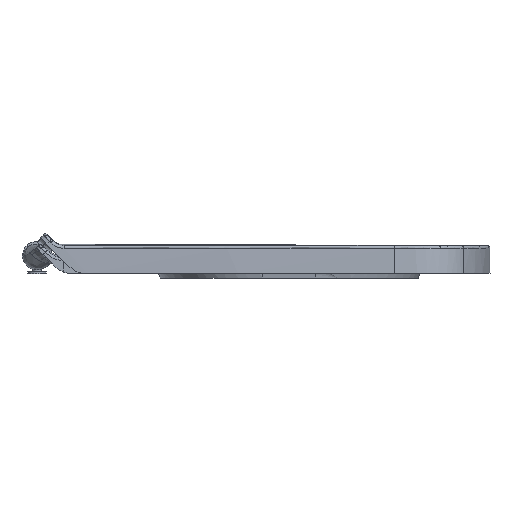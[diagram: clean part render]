
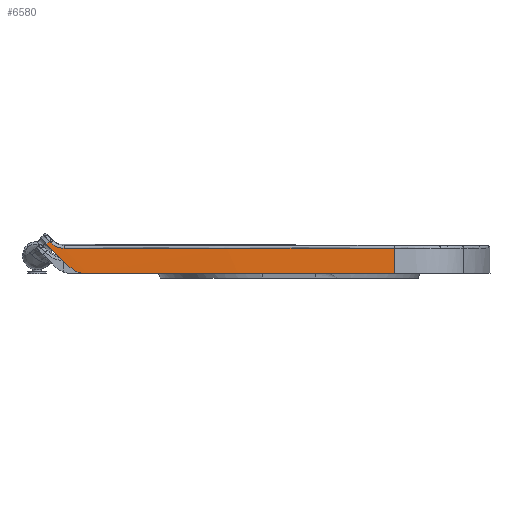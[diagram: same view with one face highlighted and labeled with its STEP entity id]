
A CAD part, front view. The second image highlights one B-rep face of the part: STEP entity #6580.
In plain terms, the highlighted free-form (B-spline) face has degree [4, 1] with [5, 3] control points.
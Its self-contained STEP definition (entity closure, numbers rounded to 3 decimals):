
#5187=CARTESIAN_POINT('',(-388.204,182.106,8.246));
#5188=VERTEX_POINT('',#5187);
#5290=CARTESIAN_POINT('',(-388.216,182.355,-19.));
#5291=VERTEX_POINT('',#5290);
#5292=CARTESIAN_POINT('',(-388.204,182.106,8.246));
#5293=DIRECTION('',(0.,0.009,-1.));
#5294=VECTOR('',#5293,27.247);
#5295=LINE('',#5292,#5294);
#5296=EDGE_CURVE('',#5188,#5291,#5295,.T.);
#5628=CARTESIAN_POINT('',(-30.285,188.697,8.387));
#5629=VERTEX_POINT('',#5628);
#5639=CARTESIAN_POINT('',(-30.285,188.697,8.387));
#5640=CARTESIAN_POINT('',(-81.43,189.35,8.378));
#5641=CARTESIAN_POINT('',(-132.579,189.653,8.364));
#5642=CARTESIAN_POINT('',(-183.735,189.327,8.349));
#5643=CARTESIAN_POINT('',(-234.879,188.216,8.333));
#5644=CARTESIAN_POINT('',(-286.008,186.726,8.311));
#5645=CARTESIAN_POINT('',(-337.119,184.668,8.282));
#5646=CARTESIAN_POINT('',(-388.204,182.106,8.246));
#5647=QUASI_UNIFORM_CURVE('',7,(#5639,#5640,#5641,#5642,#5643,#5644,#5645,#5646),.UNSPECIFIED.,.F.,.U.);
#5648=EDGE_CURVE('',#5629,#5188,#5647,.T.);
#6254=CARTESIAN_POINT('',(-14.563,188.417,15.819));
#6255=VERTEX_POINT('',#6254);
#6262=CARTESIAN_POINT('',(-16.133,188.453,14.249));
#6263=VERTEX_POINT('',#6262);
#6264=CARTESIAN_POINT('',(628.623,140.679,-630.249));
#6265=DIRECTION('',(0.049,0.998,-0.025));
#6266=DIRECTION('',(-0.705,0.052,0.708));
#6267=AXIS2_PLACEMENT_3D('',#6264,#6265,#6266);
#6268=CIRCLE('',#6267,912.892);
#6269=EDGE_CURVE('',#6263,#6255,#6268,.T.);
#6338=CARTESIAN_POINT('',(-16.133,188.453,14.249));
#6339=CARTESIAN_POINT('',(-17.31,188.481,13.072));
#6340=CARTESIAN_POINT('',(-18.542,188.508,11.937));
#6341=CARTESIAN_POINT('',(-19.94,188.535,11.033));
#6342=CARTESIAN_POINT('',(-21.857,188.573,9.791));
#6343=CARTESIAN_POINT('',(-24.041,188.61,8.972));
#6344=CARTESIAN_POINT('',(-26.299,188.643,8.625));
#6345=CARTESIAN_POINT('',(-27.616,188.662,8.423));
#6346=CARTESIAN_POINT('',(-28.953,188.68,8.387));
#6347=CARTESIAN_POINT('',(-30.285,188.697,8.387));
#6348=B_SPLINE_CURVE_WITH_KNOTS('',3,(#6338,#6339,#6340,#6341,#6342,#6343,#6344,#6345,#6346,#6347),.UNSPECIFIED.,.F.,.U.,(4,3,3,4),(0.0,0.315,0.748,1.0),.UNSPECIFIED.);
#6349=EDGE_CURVE('',#6263,#5629,#6348,.T.);
#6449=CARTESIAN_POINT('',(-11.604,188.399,12.863));
#6450=VERTEX_POINT('',#6449);
#6485=CARTESIAN_POINT('',(-14.563,188.417,15.819));
#6486=CARTESIAN_POINT('',(-13.576,188.411,14.833));
#6487=CARTESIAN_POINT('',(-12.59,188.405,13.848));
#6488=CARTESIAN_POINT('',(-11.604,188.399,12.863));
#6489=QUASI_UNIFORM_CURVE('',3,(#6485,#6486,#6487,#6488),.UNSPECIFIED.,.F.,.U.);
#6490=EDGE_CURVE('',#6255,#6450,#6489,.T.);
#6499=CARTESIAN_POINT('',(-11.6,188.677,-19.));
#6500=CARTESIAN_POINT('',(-105.727,190.075,-19.));
#6501=CARTESIAN_POINT('',(-162.674,189.707,-19.));
#6502=CARTESIAN_POINT('',(-255.992,188.978,-19.));
#6503=CARTESIAN_POINT('',(-388.216,182.355,-19.));
#6504=CARTESIAN_POINT('',(-11.6,188.677,-19.));
#6505=CARTESIAN_POINT('',(-105.727,190.075,-19.));
#6506=CARTESIAN_POINT('',(-162.674,189.707,-19.));
#6507=CARTESIAN_POINT('',(-255.992,188.978,-19.));
#6508=CARTESIAN_POINT('',(-388.216,182.355,-19.));
#6509=CARTESIAN_POINT('',(-11.604,188.374,15.819));
#6510=CARTESIAN_POINT('',(-105.728,189.771,15.819));
#6511=CARTESIAN_POINT('',(-162.671,189.403,15.819));
#6512=CARTESIAN_POINT('',(-255.983,188.673,15.819));
#6513=CARTESIAN_POINT('',(-388.2,182.036,15.819));
#6514=B_SPLINE_SURFACE_WITH_KNOTS('',4,1,((#6499,#6504,#6509),(#6500,#6505,#6510),(#6501,#6506,#6511),(#6502,#6507,#6512),(#6503,#6508,#6513)),.UNSPECIFIED.,.F.,.F.,.U.,(5,5),(2,1,2),(-0.919,0.0),(0.,0.0,0.725),.UNSPECIFIED.);
#6515=ORIENTED_EDGE('',*,*,#6490,.T.);
#6516=CARTESIAN_POINT('',(-35.484,188.931,-11.017));
#6517=VERTEX_POINT('',#6516);
#6518=CARTESIAN_POINT('',(-11.604,188.399,12.863));
#6519=CARTESIAN_POINT('',(-19.564,188.587,4.903));
#6520=CARTESIAN_POINT('',(-27.524,188.765,-3.057));
#6521=CARTESIAN_POINT('',(-35.484,188.931,-11.017));
#6522=B_SPLINE_CURVE_WITH_KNOTS('',3,(#6518,#6519,#6520,#6521),.UNSPECIFIED.,.F.,.U.,(4,4),(0.0,0.034),.UNSPECIFIED.);
#6523=EDGE_CURVE('',#6450,#6517,#6522,.T.);
#6524=ORIENTED_EDGE('',*,*,#6523,.T.);
#6525=CARTESIAN_POINT('',(-55.777,189.22,-19.));
#6526=VERTEX_POINT('',#6525);
#6527=CARTESIAN_POINT('',(-35.484,188.931,-11.017));
#6528=CARTESIAN_POINT('',(-36.152,188.945,-11.684));
#6529=CARTESIAN_POINT('',(-36.82,188.959,-12.351));
#6530=CARTESIAN_POINT('',(-37.508,188.973,-12.99));
#6531=CARTESIAN_POINT('',(-38.197,188.986,-13.628));
#6532=CARTESIAN_POINT('',(-38.907,189.,-14.239));
#6533=CARTESIAN_POINT('',(-39.651,189.014,-14.805));
#6534=CARTESIAN_POINT('',(-40.396,189.027,-15.37));
#6535=CARTESIAN_POINT('',(-41.174,189.041,-15.89));
#6536=CARTESIAN_POINT('',(-41.996,189.054,-16.352));
#6537=CARTESIAN_POINT('',(-42.407,189.061,-16.584));
#6538=CARTESIAN_POINT('',(-42.829,189.067,-16.801));
#6539=CARTESIAN_POINT('',(-43.262,189.074,-17.003));
#6540=CARTESIAN_POINT('',(-43.695,189.08,-17.205));
#6541=CARTESIAN_POINT('',(-44.138,189.087,-17.392));
#6542=CARTESIAN_POINT('',(-44.583,189.093,-17.559));
#6543=CARTESIAN_POINT('',(-46.362,189.119,-18.228));
#6544=CARTESIAN_POINT('',(-48.203,189.142,-18.606));
#6545=CARTESIAN_POINT('',(-50.081,189.162,-18.8));
#6546=CARTESIAN_POINT('',(-51.021,189.173,-18.897));
#6547=CARTESIAN_POINT('',(-51.971,189.183,-18.948));
#6548=CARTESIAN_POINT('',(-52.922,189.193,-18.974));
#6549=CARTESIAN_POINT('',(-53.874,189.202,-19.));
#6550=CARTESIAN_POINT('',(-54.825,189.211,-19.));
#6551=CARTESIAN_POINT('',(-55.777,189.22,-19.));
#6552=B_SPLINE_CURVE_WITH_KNOTS('',3,(#6527,#6528,#6529,#6530,#6531,#6532,#6533,#6534,#6535,#6536,#6537,#6538,#6539,#6540,#6541,#6542,#6543,#6544,#6545,#6546,#6547,#6548,#6549,#6550,#6551),.UNSPECIFIED.,.F.,.U.,(4,3,3,3,3,3,3,3,4),(0.0,0.003,0.006,0.008,0.01,0.011,0.017,0.02,0.022),.UNSPECIFIED.);
#6553=EDGE_CURVE('',#6517,#6526,#6552,.T.);
#6554=ORIENTED_EDGE('',*,*,#6553,.T.);
#6555=CARTESIAN_POINT('',(-55.777,189.22,-19.));
#6556=CARTESIAN_POINT('',(-78.789,189.437,-19.));
#6557=CARTESIAN_POINT('',(-100.144,189.528,-19.));
#6558=CARTESIAN_POINT('',(-121.869,189.487,-19.));
#6559=CARTESIAN_POINT('',(-143.594,189.446,-19.));
#6560=CARTESIAN_POINT('',(-165.688,189.272,-19.));
#6561=CARTESIAN_POINT('',(-189.658,188.909,-19.));
#6562=CARTESIAN_POINT('',(-213.629,188.546,-19.));
#6563=CARTESIAN_POINT('',(-239.476,187.994,-19.));
#6564=CARTESIAN_POINT('',(-268.187,187.145,-19.));
#6565=CARTESIAN_POINT('',(-296.899,186.295,-19.));
#6566=CARTESIAN_POINT('',(-328.475,185.149,-19.));
#6567=CARTESIAN_POINT('',(-363.385,183.547,-19.));
#6568=CARTESIAN_POINT('',(-371.484,183.175,-19.));
#6569=CARTESIAN_POINT('',(-379.761,182.779,-19.));
#6570=CARTESIAN_POINT('',(-388.216,182.355,-19.));
#6571=B_SPLINE_CURVE_WITH_KNOTS('',3,(#6555,#6556,#6557,#6558,#6559,#6560,#6561,#6562,#6563,#6564,#6565,#6566,#6567,#6568,#6569,#6570),.UNSPECIFIED.,.F.,.U.,(4,3,3,3,3,4),(-0.109,-0.031,0.048,0.126,0.205,0.223),.UNSPECIFIED.);
#6572=EDGE_CURVE('',#6526,#5291,#6571,.T.);
#6573=ORIENTED_EDGE('',*,*,#6572,.T.);
#6574=ORIENTED_EDGE('',*,*,#5296,.F.);
#6575=ORIENTED_EDGE('',*,*,#5648,.F.);
#6576=ORIENTED_EDGE('',*,*,#6349,.F.);
#6577=ORIENTED_EDGE('',*,*,#6269,.T.);
#6578=EDGE_LOOP('',(#6515,#6524,#6554,#6573,#6574,#6575,#6576,#6577));
#6579=FACE_OUTER_BOUND('',#6578,.T.);
#6580=ADVANCED_FACE('',(#6579),#6514,.T.);
